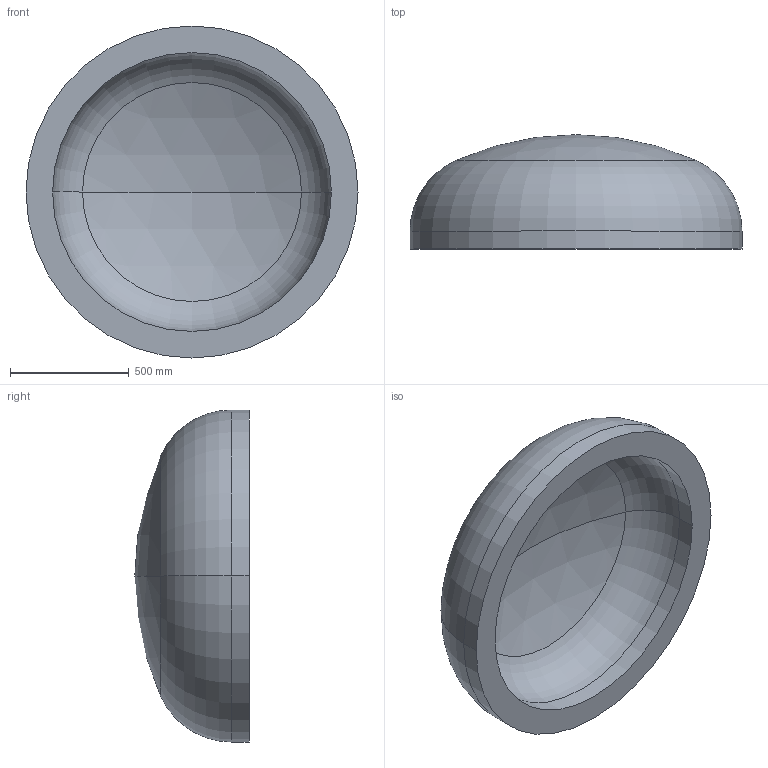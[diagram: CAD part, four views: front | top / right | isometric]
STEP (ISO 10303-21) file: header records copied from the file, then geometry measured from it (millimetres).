
FILE_DESCRIPTION (( 'STEP AP203' ), '1' );
FILE_NAME ('DIN 28013 Korbbogenform_-_Boden DIN 28013 - 1400 x 75 - I - s=112.step', '2016-07-01T10:31:11', ( '' ), ( '' ), 'SwSTEP 2.0', 'SolidWorks 2013', '' );
FILE_SCHEMA (( 'CONFIG_CONTROL_DESIGN' ));
Length unit declared in the file: millimetre
Products named in the file (1): DIN 28013 Korbbogenform_-_Boden DIN 28013 - 1400 x 75 - I - s=112
Bounding box: 1400 x 482.44 x 1400 mm (x, y, z)
Volume: 249836823.9 mm3; surface area: 4940836.6 mm2
Topology: 1 solids, 1 shells, 13 faces, 24 edges, 14 vertices
Faces by surface type: torus 4, cylinder 4, sphere 4, plane 1
Entity records: 407 total; most frequent: DIRECTION 72, CARTESIAN_POINT 52, ORIENTED_EDGE 48, AXIS2_PLACEMENT_3D 34, EDGE_CURVE 24, CIRCLE 20, VERTEX_POINT 14, EDGE_LOOP 14
